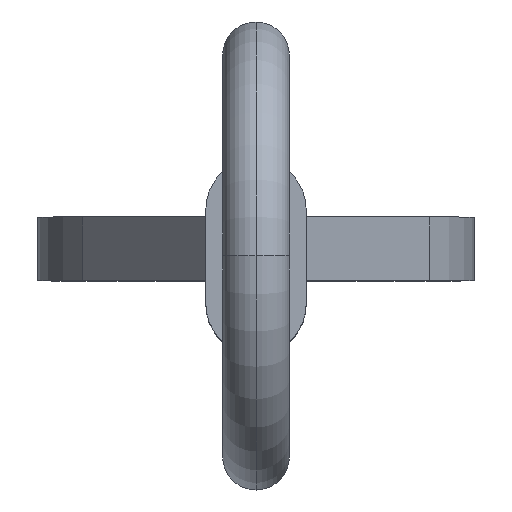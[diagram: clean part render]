
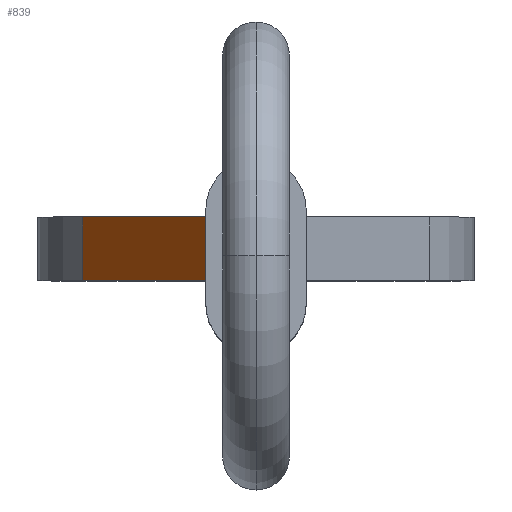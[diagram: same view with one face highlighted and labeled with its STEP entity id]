
A CAD part, top view. The second image highlights one B-rep face of the part: STEP entity #839.
In plain terms, the highlighted planar face has unit normal (-0.794, 0, 0.608).
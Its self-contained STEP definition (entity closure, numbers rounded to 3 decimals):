
#27 = DIRECTION ( 'NONE',  ( -0.794, 0., 0.608 ) ) ;
#47 = VERTEX_POINT ( 'NONE', #726 ) ;
#57 = VECTOR ( 'NONE', #360, 1000. ) ;
#111 = VERTEX_POINT ( 'NONE', #550 ) ;
#112 = FACE_OUTER_BOUND ( 'NONE', #788, .T. ) ;
#118 = CARTESIAN_POINT ( 'NONE',  ( -4.132, 0.325, -13.835 ) ) ;
#136 = ORIENTED_EDGE ( 'NONE', *, *, #645, .T. ) ;
#216 = VECTOR ( 'NONE', #558, 1000. ) ;
#251 = CARTESIAN_POINT ( 'NONE',  ( -1.195, -1.195, -10. ) ) ;
#260 = CARTESIAN_POINT ( 'NONE',  ( -4.132, -1.195, -13.835 ) ) ;
#267 = EDGE_CURVE ( 'NONE', #111, #47, #810, .T. ) ;
#282 = LINE ( 'NONE', #527, #57 ) ;
#329 = ORIENTED_EDGE ( 'NONE', *, *, #966, .T. ) ;
#347 = VECTOR ( 'NONE', #971, 1000. ) ;
#360 = DIRECTION ( 'NONE',  ( 0., -1., 0. ) ) ;
#394 = VERTEX_POINT ( 'NONE', #755 ) ;
#438 = CARTESIAN_POINT ( 'NONE',  ( -1.195, 0.325, -10. ) ) ;
#459 = VERTEX_POINT ( 'NONE', #438 ) ;
#482 = CARTESIAN_POINT ( 'NONE',  ( -1.195, 0.325, -10. ) ) ;
#504 = EDGE_CURVE ( 'NONE', #459, #394, #875, .T. ) ;
#527 = CARTESIAN_POINT ( 'NONE',  ( -4.132, 0.325, -13.835 ) ) ;
#541 = EDGE_CURVE ( 'NONE', #111, #394, #785, .T. ) ;
#550 = CARTESIAN_POINT ( 'NONE',  ( -1.195, -1.195, -10. ) ) ;
#558 = DIRECTION ( 'NONE',  ( 0., 1., 0. ) ) ;
#611 = VERTEX_POINT ( 'NONE', #799 ) ;
#635 = DIRECTION ( 'NONE',  ( 0., -1., 0. ) ) ;
#645 = EDGE_CURVE ( 'NONE', #459, #611, #780, .T. ) ;
#654 = PLANE ( 'NONE',  #998 ) ;
#683 = CARTESIAN_POINT ( 'NONE',  ( -4.132, 0.325, -13.835 ) ) ;
#703 = ORIENTED_EDGE ( 'NONE', *, *, #267, .F. ) ;
#726 = CARTESIAN_POINT ( 'NONE',  ( -4.132, -1.195, -13.835 ) ) ;
#755 = CARTESIAN_POINT ( 'NONE',  ( -1.195, 0., -10. ) ) ;
#780 = LINE ( 'NONE', #683, #882 ) ;
#785 = LINE ( 'NONE', #251, #216 ) ;
#788 = EDGE_LOOP ( 'NONE', ( #703, #876, #962, #136, #329 ) ) ;
#799 = CARTESIAN_POINT ( 'NONE',  ( -4.132, 0.325, -13.835 ) ) ;
#810 = LINE ( 'NONE', #260, #347 ) ;
#839 = ADVANCED_FACE ( 'NONE', ( #112 ), #654, .T. ) ;
#875 = LINE ( 'NONE', #482, #914 ) ;
#876 = ORIENTED_EDGE ( 'NONE', *, *, #541, .T. ) ;
#882 = VECTOR ( 'NONE', #925, 1000. ) ;
#893 = DIRECTION ( 'NONE',  ( 0.608, 0., 0.794 ) ) ;
#914 = VECTOR ( 'NONE', #635, 1000. ) ;
#925 = DIRECTION ( 'NONE',  ( -0.608, 0., -0.794 ) ) ;
#962 = ORIENTED_EDGE ( 'NONE', *, *, #504, .F. ) ;
#966 = EDGE_CURVE ( 'NONE', #611, #47, #282, .T. ) ;
#971 = DIRECTION ( 'NONE',  ( -0.608, 0., -0.794 ) ) ;
#998 = AXIS2_PLACEMENT_3D ( 'NONE', #118, #27, #893 ) ;
